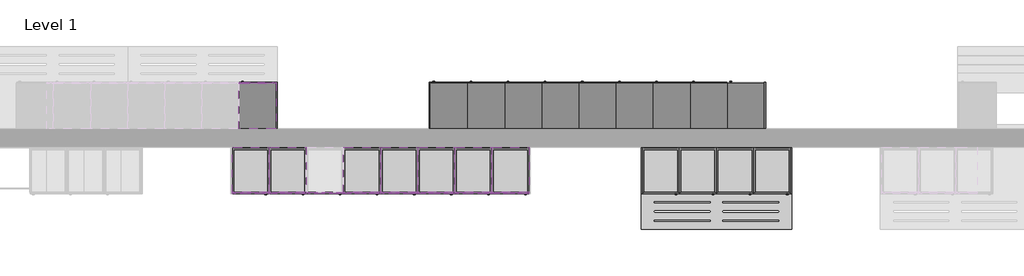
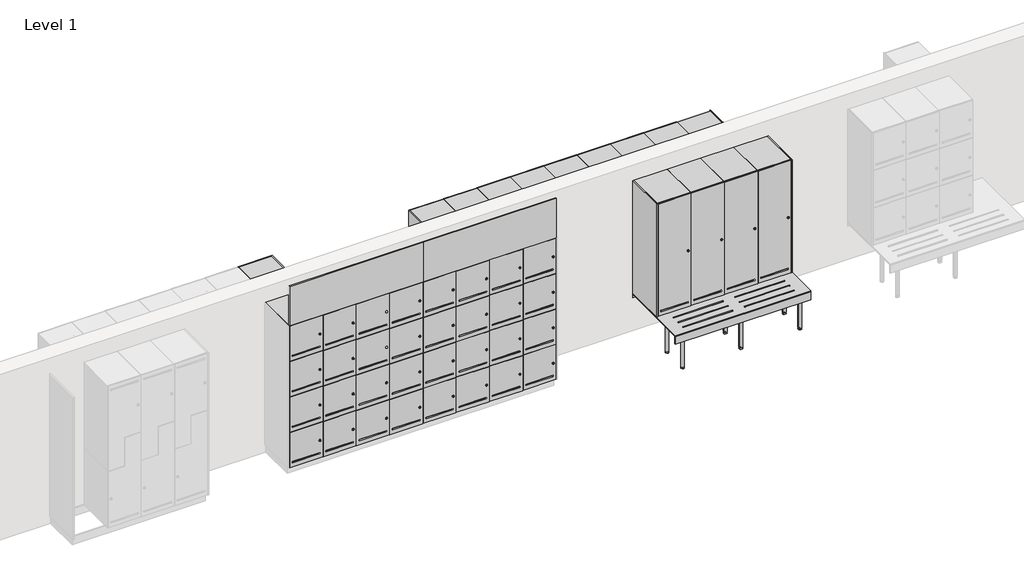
# One storey, part 2 of 4: 124 furniture elements.
"""IFC4 building model written with IfcOpenShell, lengths in millimetres."""

from ifc_helpers import new_model, si_unit, origin, place, context, project, spatial, transform, mapped, element, save
from components import furniture_7293fc8f, furniture_e4ac2a61, furniture_83d2262f, standard_2dcb62da, standard_f5ae554c, standard_ef5d929b, standard_f5e0fdab, standard_e0f8491c, standard_520bff41, standard_74556009, standard_31d623df, standard_40445af7, standard_a614ba5f, standard_bf09c246, standard_83458254, standard_7a0b6f89, standard_c490a989, standard_f60cbfea

model = new_model("IFC4")

# Units and contexts
model_context = context("Model", 3, world=origin())
ifc_project = project(units=[si_unit("LENGTHUNIT", "METRE", prefix="MILLI")], contexts=[model_context])

# Site, building, storey
site = spatial("IfcSite", under=ifc_project)
building = spatial("IfcBuilding", under=site)
storey = spatial("IfcBuildingStorey", under=building, Name="Level 1", Elevation=0.0)

# Furniture
placement = place(None, origin())
furniture_shape = furniture_7293fc8f(model_context)
element("IfcFurniture", 1, ObjectType="Lockers-Bay-Duracube-Duraloc : LBM-1900h x 500d x 400w with 470h Bench", at=placement, inside=storey, context=model_context, shape_type="MappedRepresentation", body=[
    mapped(furniture_shape, transform((-3635.1575415, 2567.7422336, 0.0), x_axis=(1.0, 0.0, 0.0), y_axis=(0.0, 1.0, 0.0), z_axis=(0.0, 0.0, 1.0))),
])
furniture_2_shape = furniture_e4ac2a61(model_context)
element("IfcFurniture", 2, ObjectType="Lockers-Bay-Duracube-Duraloc : LWM-1900h x 500d x 400w @ 470h Wall", at=placement, inside=storey, context=model_context, shape_type="MappedRepresentation", body=[
    mapped(furniture_2_shape, transform((-7555.1575415, 3267.7422336, 0.0), x_axis=(-1.0, 0.0, 0.0), y_axis=(0.0, -1.0, 0.0), z_axis=(0.0, 0.0, 1.0))),
])
furniture_3_shape = furniture_83d2262f(model_context)
element("IfcFurniture", 3, ObjectType="Lockers-Bay-Duracube-Duraloc : LSBM-1900h x 500d x 400w with 470h Shoe Box Mount", at=placement, inside=storey, context=model_context, shape_type="MappedRepresentation", body=[
    mapped(furniture_3_shape, transform((-2293.1423414, 3267.7422336, 0.0), x_axis=(-1.0, 0.0, 0.0), y_axis=(0.0, -1.0, 0.0), z_axis=(0.0, 0.0, 1.0))),
])
standard_shape = standard_2dcb62da(model_context)
element("IfcFurniture", 4, ObjectType="X_Bench-Foot-Duracube-Wall Assembly : Standard", at=placement, inside=storey, context=model_context, shape_type="MappedRepresentation", body=[
    mapped(standard_shape, transform((-3566.357868, 2317.7422336, 0.0), x_axis=(1.0, 0.0, 0.0), y_axis=(0.0, 1.0, 0.0), z_axis=(0.0, 0.0, 1.0))),
])
element("IfcFurniture", 5, ObjectType="X_Bench-Foot-Duracube-Wall Assembly : Standard", at=placement, inside=storey, context=model_context, shape_type="MappedRepresentation", body=[
    mapped(standard_shape, transform((-2866.857868, 2317.7422336, 0.0), x_axis=(1.0, 0.0, 0.0), y_axis=(0.0, 1.0, 0.0), z_axis=(0.0, 0.0, 1.0))),
])
element("IfcFurniture", 6, ObjectType="X_Bench-Foot-Duracube-Wall Assembly : Standard", at=placement, inside=storey, context=model_context, shape_type="MappedRepresentation", body=[
    mapped(standard_shape, transform((-7623.9572151, 3517.7422336, 0.0), x_axis=(-1.0, 0.0, 0.0), y_axis=(0.0, -1.0, 0.0), z_axis=(0.0, 0.0, 1.0))),
])
standard_2_shape = standard_f5ae554c(model_context)
element("IfcFurniture", 7, ObjectType="X_Bench-Foot-Duracube-Wall Assembly : Standard", at=placement, inside=storey, context=model_context, shape_type="MappedRepresentation", body=[
    mapped(standard_2_shape, transform((-2077.9572151, 2317.7422336, 0.0), x_axis=(-1.0, 0.0, 0.0), y_axis=(0.0, -1.0, 0.0), z_axis=(0.0, 0.0, 1.0))),
])
standard_3_shape = standard_ef5d929b(model_context)
element("IfcFurniture", 8, ObjectType="X_Vanity-Angle-Duracube-Bench Support : Standard", at=placement, inside=storey, context=model_context, shape_type="MappedRepresentation", body=[
    mapped(standard_3_shape, transform((-2866.857868, 2817.7422336, 417.0), x_axis=(1.0, 0.0, 0.0), y_axis=(0.0, 1.0, 0.0), z_axis=(0.0, 0.0, 1.0))),
])
standard_4_shape = standard_f5e0fdab(model_context)
element("IfcFurniture", 9, ObjectType="X_Bench-Wall-Duracube-Locker : Standard", at=placement, inside=storey, context=model_context, shape_type="MappedRepresentation", body=[
    mapped(standard_4_shape, transform((-2866.857868, 2725.2422336, 0.0), x_axis=(1.0, 0.0, 0.0), y_axis=(0.0, 1.0, 0.0), z_axis=(0.0, 0.0, 1.0))),
])
standard_5_shape = standard_e0f8491c(model_context)
element("IfcFurniture", 10, ObjectType="X_Locker-Duracube-Door : Standard", at=placement, inside=storey, context=model_context, shape_type="MappedRepresentation", body=[
    mapped(standard_5_shape, transform((-5086.857868, 2330.7422336, 1450.0), x_axis=(1.0, 0.0, 0.0), y_axis=(0.0, 1.0, 0.0), z_axis=(0.0, 0.0, 1.0))),
])
element("IfcFurniture", 11, ObjectType="X_Locker-Duracube-Door : Standard", at=placement, inside=storey, context=model_context, shape_type="MappedRepresentation", body=[
    mapped(standard_5_shape, transform((-5486.857868, 2330.7422336, 1450.0), x_axis=(1.0, 0.0, 0.0), y_axis=(0.0, 1.0, 0.0), z_axis=(0.0, 0.0, 1.0))),
])
element("IfcFurniture", 12, ObjectType="X_Locker-Duracube-Door : Standard", at=placement, inside=storey, context=model_context, shape_type="MappedRepresentation", body=[
    mapped(standard_5_shape, transform((-5886.857868, 2330.7422336, 1450.0), x_axis=(1.0, 0.0, 0.0), y_axis=(0.0, 1.0, 0.0), z_axis=(0.0, 0.0, 1.0))),
])
element("IfcFurniture", 13, ObjectType="X_Locker-Duracube-Door : Standard", at=placement, inside=storey, context=model_context, shape_type="MappedRepresentation", body=[
    mapped(standard_5_shape, transform((-6286.857868, 2330.7422336, 1450.0), x_axis=(1.0, 0.0, 0.0), y_axis=(0.0, 1.0, 0.0), z_axis=(0.0, 0.0, 1.0))),
])
element("IfcFurniture", 14, ObjectType="X_Locker-Duracube-Door : Standard", at=placement, inside=storey, context=model_context, shape_type="MappedRepresentation", body=[
    mapped(standard_5_shape, transform((-6686.857868, 2330.7422336, 1450.0), x_axis=(1.0, 0.0, 0.0), y_axis=(0.0, 1.0, 0.0), z_axis=(0.0, 0.0, 1.0))),
])
element("IfcFurniture", 15, ObjectType="X_Locker-Duracube-Door : Standard", at=placement, inside=storey, context=model_context, shape_type="MappedRepresentation", body=[
    mapped(standard_5_shape, transform((-7086.857868, 2330.7422336, 1450.0), x_axis=(1.0, 0.0, 0.0), y_axis=(0.0, 1.0, 0.0), z_axis=(0.0, 0.0, 1.0))),
])
element("IfcFurniture", 16, ObjectType="X_Locker-Duracube-Door : Standard", at=placement, inside=storey, context=model_context, shape_type="MappedRepresentation", body=[
    mapped(standard_5_shape, transform((-7486.857868, 2330.7422336, 1450.0), x_axis=(1.0, 0.0, 0.0), y_axis=(0.0, 1.0, 0.0), z_axis=(0.0, 0.0, 1.0))),
])
element("IfcFurniture", 17, ObjectType="X_Locker-Duracube-Door : Standard", at=placement, inside=storey, context=model_context, shape_type="MappedRepresentation", body=[
    mapped(standard_5_shape, transform((-7886.857868, 2330.7422336, 1450.0), x_axis=(1.0, 0.0, 0.0), y_axis=(0.0, 1.0, 0.0), z_axis=(0.0, 0.0, 1.0))),
])
element("IfcFurniture", 18, ObjectType="X_Locker-Duracube-Door : Standard", at=placement, inside=storey, context=model_context, shape_type="MappedRepresentation", body=[
    mapped(standard_5_shape, transform((-5086.857868, 2330.7422336, 1000.0), x_axis=(1.0, 0.0, 0.0), y_axis=(0.0, 1.0, 0.0), z_axis=(0.0, 0.0, 1.0))),
])
element("IfcFurniture", 19, ObjectType="X_Locker-Duracube-Door : Standard", at=placement, inside=storey, context=model_context, shape_type="MappedRepresentation", body=[
    mapped(standard_5_shape, transform((-5486.857868, 2330.7422336, 1000.0), x_axis=(1.0, 0.0, 0.0), y_axis=(0.0, 1.0, 0.0), z_axis=(0.0, 0.0, 1.0))),
])
element("IfcFurniture", 20, ObjectType="X_Locker-Duracube-Door : Standard", at=placement, inside=storey, context=model_context, shape_type="MappedRepresentation", body=[
    mapped(standard_5_shape, transform((-5886.857868, 2330.7422336, 1000.0), x_axis=(1.0, 0.0, 0.0), y_axis=(0.0, 1.0, 0.0), z_axis=(0.0, 0.0, 1.0))),
])
element("IfcFurniture", 21, ObjectType="X_Locker-Duracube-Door : Standard", at=placement, inside=storey, context=model_context, shape_type="MappedRepresentation", body=[
    mapped(standard_5_shape, transform((-6286.857868, 2330.7422336, 1000.0), x_axis=(1.0, 0.0, 0.0), y_axis=(0.0, 1.0, 0.0), z_axis=(0.0, 0.0, 1.0))),
])
element("IfcFurniture", 22, ObjectType="X_Locker-Duracube-Door : Standard", at=placement, inside=storey, context=model_context, shape_type="MappedRepresentation", body=[
    mapped(standard_5_shape, transform((-6686.857868, 2330.7422336, 1000.0), x_axis=(1.0, 0.0, 0.0), y_axis=(0.0, 1.0, 0.0), z_axis=(0.0, 0.0, 1.0))),
])
element("IfcFurniture", 23, ObjectType="X_Locker-Duracube-Door : Standard", at=placement, inside=storey, context=model_context, shape_type="MappedRepresentation", body=[
    mapped(standard_5_shape, transform((-7086.857868, 2330.7422336, 1000.0), x_axis=(1.0, 0.0, 0.0), y_axis=(0.0, 1.0, 0.0), z_axis=(0.0, 0.0, 1.0))),
])
element("IfcFurniture", 24, ObjectType="X_Locker-Duracube-Door : Standard", at=placement, inside=storey, context=model_context, shape_type="MappedRepresentation", body=[
    mapped(standard_5_shape, transform((-5086.857868, 2330.7422336, 100.0), x_axis=(1.0, 0.0, 0.0), y_axis=(0.0, 1.0, 0.0), z_axis=(0.0, 0.0, 1.0))),
])
element("IfcFurniture", 25, ObjectType="X_Locker-Duracube-Door : Standard", at=placement, inside=storey, context=model_context, shape_type="MappedRepresentation", body=[
    mapped(standard_5_shape, transform((-5486.857868, 2330.7422336, 100.0), x_axis=(1.0, 0.0, 0.0), y_axis=(0.0, 1.0, 0.0), z_axis=(0.0, 0.0, 1.0))),
])
element("IfcFurniture", 26, ObjectType="X_Locker-Duracube-Door : Standard", at=placement, inside=storey, context=model_context, shape_type="MappedRepresentation", body=[
    mapped(standard_5_shape, transform((-5886.857868, 2330.7422336, 100.0), x_axis=(1.0, 0.0, 0.0), y_axis=(0.0, 1.0, 0.0), z_axis=(0.0, 0.0, 1.0))),
])
element("IfcFurniture", 27, ObjectType="X_Locker-Duracube-Door : Standard", at=placement, inside=storey, context=model_context, shape_type="MappedRepresentation", body=[
    mapped(standard_5_shape, transform((-6286.857868, 2330.7422336, 100.0), x_axis=(1.0, 0.0, 0.0), y_axis=(0.0, 1.0, 0.0), z_axis=(0.0, 0.0, 1.0))),
])
element("IfcFurniture", 28, ObjectType="X_Locker-Duracube-Door : Standard", at=placement, inside=storey, context=model_context, shape_type="MappedRepresentation", body=[
    mapped(standard_5_shape, transform((-6686.857868, 2330.7422336, 100.0), x_axis=(1.0, 0.0, 0.0), y_axis=(0.0, 1.0, 0.0), z_axis=(0.0, 0.0, 1.0))),
])
element("IfcFurniture", 29, ObjectType="X_Locker-Duracube-Door : Standard", at=placement, inside=storey, context=model_context, shape_type="MappedRepresentation", body=[
    mapped(standard_5_shape, transform((-7086.857868, 2330.7422336, 100.0), x_axis=(1.0, 0.0, 0.0), y_axis=(0.0, 1.0, 0.0), z_axis=(0.0, 0.0, 1.0))),
])
element("IfcFurniture", 30, ObjectType="X_Locker-Duracube-Door : Standard", at=placement, inside=storey, context=model_context, shape_type="MappedRepresentation", body=[
    mapped(standard_5_shape, transform((-7486.857868, 2330.7422336, 1000.0), x_axis=(1.0, 0.0, 0.0), y_axis=(0.0, 1.0, 0.0), z_axis=(0.0, 0.0, 1.0))),
])
element("IfcFurniture", 31, ObjectType="X_Locker-Duracube-Door : Standard", at=placement, inside=storey, context=model_context, shape_type="MappedRepresentation", body=[
    mapped(standard_5_shape, transform((-7486.857868, 2330.7422336, 100.0), x_axis=(1.0, 0.0, 0.0), y_axis=(0.0, 1.0, 0.0), z_axis=(0.0, 0.0, 1.0))),
])
element("IfcFurniture", 32, ObjectType="X_Locker-Duracube-Door : Standard", at=placement, inside=storey, context=model_context, shape_type="MappedRepresentation", body=[
    mapped(standard_5_shape, transform((-7886.857868, 2330.7422336, 1000.0), x_axis=(1.0, 0.0, 0.0), y_axis=(0.0, 1.0, 0.0), z_axis=(0.0, 0.0, 1.0))),
])
element("IfcFurniture", 33, ObjectType="X_Locker-Duracube-Door : Standard", at=placement, inside=storey, context=model_context, shape_type="MappedRepresentation", body=[
    mapped(standard_5_shape, transform((-7886.857868, 2330.7422336, 100.0), x_axis=(1.0, 0.0, 0.0), y_axis=(0.0, 1.0, 0.0), z_axis=(0.0, 0.0, 1.0))),
])
element("IfcFurniture", 34, ObjectType="X_Locker-Duracube-Door : Standard", at=placement, inside=storey, context=model_context, shape_type="MappedRepresentation", body=[
    mapped(standard_5_shape, transform((-5086.857868, 2330.7422336, 550.0), x_axis=(1.0, 0.0, 0.0), y_axis=(0.0, 1.0, 0.0), z_axis=(0.0, 0.0, 1.0))),
])
element("IfcFurniture", 35, ObjectType="X_Locker-Duracube-Door : Standard", at=placement, inside=storey, context=model_context, shape_type="MappedRepresentation", body=[
    mapped(standard_5_shape, transform((-5486.857868, 2330.7422336, 550.0), x_axis=(1.0, 0.0, 0.0), y_axis=(0.0, 1.0, 0.0), z_axis=(0.0, 0.0, 1.0))),
])
element("IfcFurniture", 36, ObjectType="X_Locker-Duracube-Door : Standard", at=placement, inside=storey, context=model_context, shape_type="MappedRepresentation", body=[
    mapped(standard_5_shape, transform((-5886.857868, 2330.7422336, 550.0), x_axis=(1.0, 0.0, 0.0), y_axis=(0.0, 1.0, 0.0), z_axis=(0.0, 0.0, 1.0))),
])
element("IfcFurniture", 37, ObjectType="X_Locker-Duracube-Door : Standard", at=placement, inside=storey, context=model_context, shape_type="MappedRepresentation", body=[
    mapped(standard_5_shape, transform((-6286.857868, 2330.7422336, 550.0), x_axis=(1.0, 0.0, 0.0), y_axis=(0.0, 1.0, 0.0), z_axis=(0.0, 0.0, 1.0))),
])
element("IfcFurniture", 38, ObjectType="X_Locker-Duracube-Door : Standard", at=placement, inside=storey, context=model_context, shape_type="MappedRepresentation", body=[
    mapped(standard_5_shape, transform((-6686.857868, 2330.7422336, 550.0), x_axis=(1.0, 0.0, 0.0), y_axis=(0.0, 1.0, 0.0), z_axis=(0.0, 0.0, 1.0))),
])
element("IfcFurniture", 39, ObjectType="X_Locker-Duracube-Door : Standard", at=placement, inside=storey, context=model_context, shape_type="MappedRepresentation", body=[
    mapped(standard_5_shape, transform((-7086.857868, 2330.7422336, 550.0), x_axis=(1.0, 0.0, 0.0), y_axis=(0.0, 1.0, 0.0), z_axis=(0.0, 0.0, 1.0))),
])
element("IfcFurniture", 40, ObjectType="X_Locker-Duracube-Door : Standard", at=placement, inside=storey, context=model_context, shape_type="MappedRepresentation", body=[
    mapped(standard_5_shape, transform((-7486.857868, 2330.7422336, 550.0), x_axis=(1.0, 0.0, 0.0), y_axis=(0.0, 1.0, 0.0), z_axis=(0.0, 0.0, 1.0))),
])
element("IfcFurniture", 41, ObjectType="X_Locker-Duracube-Door : Standard", at=placement, inside=storey, context=model_context, shape_type="MappedRepresentation", body=[
    mapped(standard_5_shape, transform((-7886.857868, 2330.7422336, 550.0), x_axis=(1.0, 0.0, 0.0), y_axis=(0.0, 1.0, 0.0), z_axis=(0.0, 0.0, 1.0))),
])
standard_6_shape = standard_520bff41(model_context)
element("IfcFurniture", 42, ObjectType="X_Locker-Duracube-Bay : Standard", at=placement, inside=storey, context=model_context, shape_type="MappedRepresentation", body=[
    mapped(standard_6_shape, transform((-2266.857868, 2817.7422336, 470.0), x_axis=(1.0, 0.0, 0.0), y_axis=(0.0, 1.0, 0.0), z_axis=(0.0, 0.0, 1.0))),
])
element("IfcFurniture", 43, ObjectType="X_Locker-Duracube-Bay : Standard", at=placement, inside=storey, context=model_context, shape_type="MappedRepresentation", body=[
    mapped(standard_6_shape, transform((-2666.857868, 2817.7422336, 470.0), x_axis=(1.0, 0.0, 0.0), y_axis=(0.0, 1.0, 0.0), z_axis=(0.0, 0.0, 1.0))),
])
element("IfcFurniture", 44, ObjectType="X_Locker-Duracube-Bay : Standard", at=placement, inside=storey, context=model_context, shape_type="MappedRepresentation", body=[
    mapped(standard_6_shape, transform((-3066.857868, 2817.7422336, 470.0), x_axis=(1.0, 0.0, 0.0), y_axis=(0.0, 1.0, 0.0), z_axis=(0.0, 0.0, 1.0))),
])
element("IfcFurniture", 45, ObjectType="X_Locker-Duracube-Bay : Standard", at=placement, inside=storey, context=model_context, shape_type="MappedRepresentation", body=[
    mapped(standard_6_shape, transform((-3466.857868, 2817.7422336, 470.0), x_axis=(1.0, 0.0, 0.0), y_axis=(0.0, 1.0, 0.0), z_axis=(0.0, 0.0, 1.0))),
])
standard_7_shape = standard_74556009(model_context)
element("IfcFurniture", 46, ObjectType="X_Locker-Duracube-Door : Standard", at=placement, inside=storey, context=model_context, shape_type="MappedRepresentation", body=[
    mapped(standard_7_shape, transform((-2266.857868, 2330.7422336, 470.0), x_axis=(1.0, 0.0, 0.0), y_axis=(0.0, 1.0, 0.0), z_axis=(0.0, 0.0, 1.0))),
])
element("IfcFurniture", 47, ObjectType="X_Locker-Duracube-Door : Standard", at=placement, inside=storey, context=model_context, shape_type="MappedRepresentation", body=[
    mapped(standard_7_shape, transform((-2666.857868, 2330.7422336, 470.0), x_axis=(1.0, 0.0, 0.0), y_axis=(0.0, 1.0, 0.0), z_axis=(0.0, 0.0, 1.0))),
])
element("IfcFurniture", 48, ObjectType="X_Locker-Duracube-Door : Standard", at=placement, inside=storey, context=model_context, shape_type="MappedRepresentation", body=[
    mapped(standard_7_shape, transform((-3066.857868, 2330.7422336, 470.0), x_axis=(1.0, 0.0, 0.0), y_axis=(0.0, 1.0, 0.0), z_axis=(0.0, 0.0, 1.0))),
])
element("IfcFurniture", 49, ObjectType="X_Locker-Duracube-Door : Standard", at=placement, inside=storey, context=model_context, shape_type="MappedRepresentation", body=[
    mapped(standard_7_shape, transform((-3466.857868, 2330.7422336, 470.0), x_axis=(1.0, 0.0, 0.0), y_axis=(0.0, 1.0, 0.0), z_axis=(0.0, 0.0, 1.0))),
])
standard_8_shape = standard_31d623df(model_context)
element("IfcFurniture", 50, ObjectType="X_Locker-Duracube-Door : Standard", at=placement, inside=storey, context=model_context, shape_type="MappedRepresentation", body=[
    mapped(standard_8_shape, transform((-5661.442015, 3504.7422336, 1185.0), x_axis=(-1.0, 0.0, 0.0), y_axis=(0.0, -1.0, 0.0), z_axis=(0.0, 0.0, 1.0))),
])
element("IfcFurniture", 51, ObjectType="X_Locker-Duracube-Door : Standard", at=placement, inside=storey, context=model_context, shape_type="MappedRepresentation", body=[
    mapped(standard_8_shape, transform((-5261.442015, 3504.7422336, 1185.0), x_axis=(-1.0, 0.0, 0.0), y_axis=(0.0, -1.0, 0.0), z_axis=(0.0, 0.0, 1.0))),
])
element("IfcFurniture", 52, ObjectType="X_Locker-Duracube-Door : Standard", at=placement, inside=storey, context=model_context, shape_type="MappedRepresentation", body=[
    mapped(standard_8_shape, transform((-4861.442015, 3504.7422336, 1185.0), x_axis=(-1.0, 0.0, 0.0), y_axis=(0.0, -1.0, 0.0), z_axis=(0.0, 0.0, 1.0))),
])
element("IfcFurniture", 53, ObjectType="X_Locker-Duracube-Door : Standard", at=placement, inside=storey, context=model_context, shape_type="MappedRepresentation", body=[
    mapped(standard_8_shape, transform((-4461.442015, 3504.7422336, 1185.0), x_axis=(-1.0, 0.0, 0.0), y_axis=(0.0, -1.0, 0.0), z_axis=(0.0, 0.0, 1.0))),
])
element("IfcFurniture", 54, ObjectType="X_Locker-Duracube-Door : Standard", at=placement, inside=storey, context=model_context, shape_type="MappedRepresentation", body=[
    mapped(standard_8_shape, transform((-4061.442015, 3504.7422336, 1185.0), x_axis=(-1.0, 0.0, 0.0), y_axis=(0.0, -1.0, 0.0), z_axis=(0.0, 0.0, 1.0))),
])
element("IfcFurniture", 55, ObjectType="X_Locker-Duracube-Door : Standard", at=placement, inside=storey, context=model_context, shape_type="MappedRepresentation", body=[
    mapped(standard_8_shape, transform((-3661.442015, 3504.7422336, 1185.0), x_axis=(-1.0, 0.0, 0.0), y_axis=(0.0, -1.0, 0.0), z_axis=(0.0, 0.0, 1.0))),
])
element("IfcFurniture", 56, ObjectType="X_Locker-Duracube-Door : Standard", at=placement, inside=storey, context=model_context, shape_type="MappedRepresentation", body=[
    mapped(standard_8_shape, transform((-3261.442015, 3504.7422336, 1185.0), x_axis=(-1.0, 0.0, 0.0), y_axis=(0.0, -1.0, 0.0), z_axis=(0.0, 0.0, 1.0))),
])
element("IfcFurniture", 57, ObjectType="X_Locker-Duracube-Door : Standard", at=placement, inside=storey, context=model_context, shape_type="MappedRepresentation", body=[
    mapped(standard_8_shape, transform((-5661.442015, 3504.7422336, 470.0), x_axis=(-1.0, 0.0, 0.0), y_axis=(0.0, -1.0, 0.0), z_axis=(0.0, 0.0, 1.0))),
])
element("IfcFurniture", 58, ObjectType="X_Locker-Duracube-Door : Standard", at=placement, inside=storey, context=model_context, shape_type="MappedRepresentation", body=[
    mapped(standard_8_shape, transform((-5261.442015, 3504.7422336, 470.0), x_axis=(-1.0, 0.0, 0.0), y_axis=(0.0, -1.0, 0.0), z_axis=(0.0, 0.0, 1.0))),
])
element("IfcFurniture", 59, ObjectType="X_Locker-Duracube-Door : Standard", at=placement, inside=storey, context=model_context, shape_type="MappedRepresentation", body=[
    mapped(standard_8_shape, transform((-4861.442015, 3504.7422336, 470.0), x_axis=(-1.0, 0.0, 0.0), y_axis=(0.0, -1.0, 0.0), z_axis=(0.0, 0.0, 1.0))),
])
element("IfcFurniture", 60, ObjectType="X_Locker-Duracube-Door : Standard", at=placement, inside=storey, context=model_context, shape_type="MappedRepresentation", body=[
    mapped(standard_8_shape, transform((-4461.442015, 3504.7422336, 470.0), x_axis=(-1.0, 0.0, 0.0), y_axis=(0.0, -1.0, 0.0), z_axis=(0.0, 0.0, 1.0))),
])
element("IfcFurniture", 61, ObjectType="X_Locker-Duracube-Door : Standard", at=placement, inside=storey, context=model_context, shape_type="MappedRepresentation", body=[
    mapped(standard_8_shape, transform((-4061.442015, 3504.7422336, 470.0), x_axis=(-1.0, 0.0, 0.0), y_axis=(0.0, -1.0, 0.0), z_axis=(0.0, 0.0, 1.0))),
])
element("IfcFurniture", 62, ObjectType="X_Locker-Duracube-Door : Standard", at=placement, inside=storey, context=model_context, shape_type="MappedRepresentation", body=[
    mapped(standard_8_shape, transform((-3661.442015, 3504.7422336, 470.0), x_axis=(-1.0, 0.0, 0.0), y_axis=(0.0, -1.0, 0.0), z_axis=(0.0, 0.0, 1.0))),
])
element("IfcFurniture", 63, ObjectType="X_Locker-Duracube-Door : Standard", at=placement, inside=storey, context=model_context, shape_type="MappedRepresentation", body=[
    mapped(standard_8_shape, transform((-3261.442015, 3504.7422336, 470.0), x_axis=(-1.0, 0.0, 0.0), y_axis=(0.0, -1.0, 0.0), z_axis=(0.0, 0.0, 1.0))),
])
element("IfcFurniture", 64, ObjectType="X_Locker-Duracube-Door : Standard", at=placement, inside=storey, context=model_context, shape_type="MappedRepresentation", body=[
    mapped(standard_8_shape, transform((-2861.442015, 3504.7422336, 1185.0), x_axis=(-1.0, 0.0, 0.0), y_axis=(0.0, -1.0, 0.0), z_axis=(0.0, 0.0, 1.0))),
])
standard_9_shape = standard_40445af7(model_context)
element("IfcFurniture", 65, ObjectType="X_Locker-Duracube-Bay : Standard", at=placement, inside=storey, context=model_context, shape_type="MappedRepresentation", body=[
    mapped(standard_9_shape, transform((-7723.4572151, 3017.7422336, 470.0), x_axis=(-1.0, 0.0, 0.0), y_axis=(0.0, -1.0, 0.0), z_axis=(0.0, 0.0, 1.0))),
])
element("IfcFurniture", 66, ObjectType="X_Locker-Duracube-Bay : Standard", at=placement, inside=storey, context=model_context, shape_type="MappedRepresentation", body=[
    mapped(standard_9_shape, transform((-7723.4572151, 3017.7422336, 1185.0), x_axis=(-1.0, 0.0, 0.0), y_axis=(0.0, -1.0, 0.0), z_axis=(0.0, 0.0, 1.0))),
])
standard_10_shape = standard_a614ba5f(model_context)
element("IfcFurniture", 67, ObjectType="X_Locker-Duracube-Door : Standard", at=placement, inside=storey, context=model_context, shape_type="MappedRepresentation", body=[
    mapped(standard_10_shape, transform((-7723.4572151, 3504.7422336, 470.0), x_axis=(-1.0, 0.0, 0.0), y_axis=(0.0, -1.0, 0.0), z_axis=(0.0, 0.0, 1.0))),
])
element("IfcFurniture", 68, ObjectType="X_Locker-Duracube-Door : Standard", at=placement, inside=storey, context=model_context, shape_type="MappedRepresentation", body=[
    mapped(standard_10_shape, transform((-7723.4572151, 3504.7422336, 1185.0), x_axis=(-1.0, 0.0, 0.0), y_axis=(0.0, -1.0, 0.0), z_axis=(0.0, 0.0, 1.0))),
])
element("IfcFurniture", 69, ObjectType="X_Locker-Duracube-Bay : Standard", at=placement, inside=storey, context=model_context, shape_type="MappedRepresentation", body=[
    mapped(standard_9_shape, transform((-7723.4572151, 3017.7422336, 827.5), x_axis=(-1.0, 0.0, 0.0), y_axis=(0.0, -1.0, 0.0), z_axis=(0.0, 0.0, 1.0))),
])
element("IfcFurniture", 70, ObjectType="X_Locker-Duracube-Door : Standard", at=placement, inside=storey, context=model_context, shape_type="MappedRepresentation", body=[
    mapped(standard_10_shape, transform((-7723.4572151, 3504.7422336, 827.5), x_axis=(-1.0, 0.0, 0.0), y_axis=(0.0, -1.0, 0.0), z_axis=(0.0, 0.0, 1.0))),
])
element("IfcFurniture", 71, ObjectType="X_Locker-Duracube-Bay : Standard", at=placement, inside=storey, context=model_context, shape_type="MappedRepresentation", body=[
    mapped(standard_9_shape, transform((-7723.4572151, 3017.7422336, 1542.5), x_axis=(-1.0, 0.0, 0.0), y_axis=(0.0, -1.0, 0.0), z_axis=(0.0, 0.0, 1.0))),
])
element("IfcFurniture", 72, ObjectType="X_Locker-Duracube-Door : Standard", at=placement, inside=storey, context=model_context, shape_type="MappedRepresentation", body=[
    mapped(standard_10_shape, transform((-7723.4572151, 3504.7422336, 1542.5), x_axis=(-1.0, 0.0, 0.0), y_axis=(0.0, -1.0, 0.0), z_axis=(0.0, 0.0, 1.0))),
])
standard_11_shape = standard_bf09c246(model_context)
element("IfcFurniture", 73, ObjectType="X_Locker-Duracube-Bay : Standard", at=placement, inside=storey, context=model_context, shape_type="MappedRepresentation", body=[
    mapped(standard_11_shape, transform((-5661.442015, 3017.7422336, 1185.0), x_axis=(-1.0, 0.0, 0.0), y_axis=(0.0, -1.0, 0.0), z_axis=(0.0, 0.0, 1.0))),
])
element("IfcFurniture", 74, ObjectType="X_Locker-Duracube-Bay : Standard", at=placement, inside=storey, context=model_context, shape_type="MappedRepresentation", body=[
    mapped(standard_11_shape, transform((-5261.442015, 3017.7422336, 1185.0), x_axis=(-1.0, 0.0, 0.0), y_axis=(0.0, -1.0, 0.0), z_axis=(0.0, 0.0, 1.0))),
])
element("IfcFurniture", 75, ObjectType="X_Locker-Duracube-Bay : Standard", at=placement, inside=storey, context=model_context, shape_type="MappedRepresentation", body=[
    mapped(standard_11_shape, transform((-4861.442015, 3017.7422336, 1185.0), x_axis=(-1.0, 0.0, 0.0), y_axis=(0.0, -1.0, 0.0), z_axis=(0.0, 0.0, 1.0))),
])
element("IfcFurniture", 76, ObjectType="X_Locker-Duracube-Bay : Standard", at=placement, inside=storey, context=model_context, shape_type="MappedRepresentation", body=[
    mapped(standard_11_shape, transform((-4461.442015, 3017.7422336, 1185.0), x_axis=(-1.0, 0.0, 0.0), y_axis=(0.0, -1.0, 0.0), z_axis=(0.0, 0.0, 1.0))),
])
element("IfcFurniture", 77, ObjectType="X_Locker-Duracube-Bay : Standard", at=placement, inside=storey, context=model_context, shape_type="MappedRepresentation", body=[
    mapped(standard_11_shape, transform((-4061.442015, 3017.7422336, 1185.0), x_axis=(-1.0, 0.0, 0.0), y_axis=(0.0, -1.0, 0.0), z_axis=(0.0, 0.0, 1.0))),
])
element("IfcFurniture", 78, ObjectType="X_Locker-Duracube-Bay : Standard", at=placement, inside=storey, context=model_context, shape_type="MappedRepresentation", body=[
    mapped(standard_11_shape, transform((-3661.442015, 3017.7422336, 1185.0), x_axis=(-1.0, 0.0, 0.0), y_axis=(0.0, -1.0, 0.0), z_axis=(0.0, 0.0, 1.0))),
])
element("IfcFurniture", 79, ObjectType="X_Locker-Duracube-Bay : Standard", at=placement, inside=storey, context=model_context, shape_type="MappedRepresentation", body=[
    mapped(standard_11_shape, transform((-3261.442015, 3017.7422336, 1185.0), x_axis=(-1.0, 0.0, 0.0), y_axis=(0.0, -1.0, 0.0), z_axis=(0.0, 0.0, 1.0))),
])
element("IfcFurniture", 80, ObjectType="X_Locker-Duracube-Bay : Standard", at=placement, inside=storey, context=model_context, shape_type="MappedRepresentation", body=[
    mapped(standard_11_shape, transform((-5661.442015, 3017.7422336, 470.0), x_axis=(-1.0, 0.0, 0.0), y_axis=(0.0, -1.0, 0.0), z_axis=(0.0, 0.0, 1.0))),
])
element("IfcFurniture", 81, ObjectType="X_Locker-Duracube-Bay : Standard", at=placement, inside=storey, context=model_context, shape_type="MappedRepresentation", body=[
    mapped(standard_11_shape, transform((-5261.442015, 3017.7422336, 470.0), x_axis=(-1.0, 0.0, 0.0), y_axis=(0.0, -1.0, 0.0), z_axis=(0.0, 0.0, 1.0))),
])
element("IfcFurniture", 82, ObjectType="X_Locker-Duracube-Bay : Standard", at=placement, inside=storey, context=model_context, shape_type="MappedRepresentation", body=[
    mapped(standard_11_shape, transform((-4861.442015, 3017.7422336, 470.0), x_axis=(-1.0, 0.0, 0.0), y_axis=(0.0, -1.0, 0.0), z_axis=(0.0, 0.0, 1.0))),
])
element("IfcFurniture", 83, ObjectType="X_Locker-Duracube-Bay : Standard", at=placement, inside=storey, context=model_context, shape_type="MappedRepresentation", body=[
    mapped(standard_11_shape, transform((-4461.442015, 3017.7422336, 470.0), x_axis=(-1.0, 0.0, 0.0), y_axis=(0.0, -1.0, 0.0), z_axis=(0.0, 0.0, 1.0))),
])
element("IfcFurniture", 84, ObjectType="X_Locker-Duracube-Bay : Standard", at=placement, inside=storey, context=model_context, shape_type="MappedRepresentation", body=[
    mapped(standard_11_shape, transform((-4061.442015, 3017.7422336, 470.0), x_axis=(-1.0, 0.0, 0.0), y_axis=(0.0, -1.0, 0.0), z_axis=(0.0, 0.0, 1.0))),
])
element("IfcFurniture", 85, ObjectType="X_Locker-Duracube-Bay : Standard", at=placement, inside=storey, context=model_context, shape_type="MappedRepresentation", body=[
    mapped(standard_11_shape, transform((-3661.442015, 3017.7422336, 470.0), x_axis=(-1.0, 0.0, 0.0), y_axis=(0.0, -1.0, 0.0), z_axis=(0.0, 0.0, 1.0))),
])
element("IfcFurniture", 86, ObjectType="X_Locker-Duracube-Bay : Standard", at=placement, inside=storey, context=model_context, shape_type="MappedRepresentation", body=[
    mapped(standard_11_shape, transform((-3261.442015, 3017.7422336, 470.0), x_axis=(-1.0, 0.0, 0.0), y_axis=(0.0, -1.0, 0.0), z_axis=(0.0, 0.0, 1.0))),
])
element("IfcFurniture", 87, ObjectType="X_Locker-Duracube-Bay : Standard", at=placement, inside=storey, context=model_context, shape_type="MappedRepresentation", body=[
    mapped(standard_11_shape, transform((-2861.442015, 3017.7422336, 1185.0), x_axis=(-1.0, 0.0, 0.0), y_axis=(0.0, -1.0, 0.0), z_axis=(0.0, 0.0, 1.0))),
])
element("IfcFurniture", 88, ObjectType="X_Locker-Duracube-Bay : Standard", at=placement, inside=storey, context=model_context, shape_type="MappedRepresentation", body=[
    mapped(standard_11_shape, transform((-2861.442015, 3017.7422336, 470.0), x_axis=(-1.0, 0.0, 0.0), y_axis=(0.0, -1.0, 0.0), z_axis=(0.0, 0.0, 1.0))),
])
element("IfcFurniture", 89, ObjectType="X_Locker-Duracube-Bay : Standard", at=placement, inside=storey, context=model_context, shape_type="MappedRepresentation", body=[
    mapped(standard_11_shape, transform((-2461.442015, 3017.7422336, 1185.0), x_axis=(-1.0, 0.0, 0.0), y_axis=(0.0, -1.0, 0.0), z_axis=(0.0, 0.0, 1.0))),
])
element("IfcFurniture", 90, ObjectType="X_Locker-Duracube-Bay : Standard", at=placement, inside=storey, context=model_context, shape_type="MappedRepresentation", body=[
    mapped(standard_11_shape, transform((-2461.442015, 3017.7422336, 470.0), x_axis=(-1.0, 0.0, 0.0), y_axis=(0.0, -1.0, 0.0), z_axis=(0.0, 0.0, 1.0))),
])
standard_12_shape = standard_83458254(model_context)
element("IfcFurniture", 91, ObjectType="X_Locker-Duracube-Shoe Box : Standard", at=placement, inside=storey, context=model_context, shape_type="MappedRepresentation", body=[
    mapped(standard_12_shape, transform((-3254.942015, 2725.2422336, 0.0), x_axis=(-1.0, 0.0, 0.0), y_axis=(0.0, -1.0, 0.0), z_axis=(0.0, 0.0, 1.0))),
])
standard_13_shape = standard_7a0b6f89(model_context)
element("IfcFurniture", 92, ObjectType="X_Locker-Duracube-Shoe Box : Standard", at=placement, inside=storey, context=model_context, shape_type="MappedRepresentation", body=[
    mapped(standard_13_shape, transform((-5067.942015, 2725.2422336, 0.0), x_axis=(-1.0, 0.0, 0.0), y_axis=(0.0, -1.0, 0.0), z_axis=(0.0, 0.0, 1.0))),
])
standard_14_shape = standard_c490a989(model_context)
element("IfcFurniture", 93, ObjectType="X_Locker-Duracube-Panel : Standard", at=placement, inside=storey, context=model_context, shape_type="MappedRepresentation", body=[
    mapped(standard_14_shape, transform((-5681.857868, 2330.7422336, 1900.0), x_axis=(1.0, 0.0, 0.0), y_axis=(0.0, 1.0, 0.0), z_axis=(0.0, 0.0, 1.0))),
])
element("IfcFurniture", 94, ObjectType="X_Locker-Duracube-Panel : Standard", at=placement, inside=storey, context=model_context, shape_type="MappedRepresentation", body=[
    mapped(standard_14_shape, transform((-7281.857868, 2330.7422336, 1900.0), x_axis=(1.0, 0.0, 0.0), y_axis=(0.0, 1.0, 0.0), z_axis=(0.0, 0.0, 1.0))),
])
standard_15_shape = standard_f60cbfea(model_context)
element("IfcFurniture", 95, ObjectType="X_Locker-Duracube-Bay : Standard", at=placement, inside=storey, context=model_context, shape_type="MappedRepresentation", body=[
    mapped(standard_15_shape, transform((-5086.857868, 2817.7422336, 1450.0), x_axis=(1.0, 0.0, 0.0), y_axis=(0.0, 1.0, 0.0), z_axis=(0.0, 0.0, 1.0))),
])
element("IfcFurniture", 96, ObjectType="X_Locker-Duracube-Bay : Standard", at=placement, inside=storey, context=model_context, shape_type="MappedRepresentation", body=[
    mapped(standard_15_shape, transform((-5486.857868, 2817.7422336, 1450.0), x_axis=(1.0, 0.0, 0.0), y_axis=(0.0, 1.0, 0.0), z_axis=(0.0, 0.0, 1.0))),
])
element("IfcFurniture", 97, ObjectType="X_Locker-Duracube-Bay : Standard", at=placement, inside=storey, context=model_context, shape_type="MappedRepresentation", body=[
    mapped(standard_15_shape, transform((-5886.857868, 2817.7422336, 1450.0), x_axis=(1.0, 0.0, 0.0), y_axis=(0.0, 1.0, 0.0), z_axis=(0.0, 0.0, 1.0))),
])
element("IfcFurniture", 98, ObjectType="X_Locker-Duracube-Bay : Standard", at=placement, inside=storey, context=model_context, shape_type="MappedRepresentation", body=[
    mapped(standard_15_shape, transform((-6286.857868, 2817.7422336, 1450.0), x_axis=(1.0, 0.0, 0.0), y_axis=(0.0, 1.0, 0.0), z_axis=(0.0, 0.0, 1.0))),
])
element("IfcFurniture", 99, ObjectType="X_Locker-Duracube-Bay : Standard", at=placement, inside=storey, context=model_context, shape_type="MappedRepresentation", body=[
    mapped(standard_15_shape, transform((-6686.857868, 2817.7422336, 1450.0), x_axis=(1.0, 0.0, 0.0), y_axis=(0.0, 1.0, 0.0), z_axis=(0.0, 0.0, 1.0))),
])
element("IfcFurniture", 100, ObjectType="X_Locker-Duracube-Bay : Standard", at=placement, inside=storey, context=model_context, shape_type="MappedRepresentation", body=[
    mapped(standard_15_shape, transform((-7486.857868, 2817.7422336, 1450.0), x_axis=(1.0, 0.0, 0.0), y_axis=(0.0, 1.0, 0.0), z_axis=(0.0, 0.0, 1.0))),
])
element("IfcFurniture", 101, ObjectType="X_Locker-Duracube-Bay : Standard", at=placement, inside=storey, context=model_context, shape_type="MappedRepresentation", body=[
    mapped(standard_15_shape, transform((-7886.857868, 2817.7422336, 1450.0), x_axis=(1.0, 0.0, 0.0), y_axis=(0.0, 1.0, 0.0), z_axis=(0.0, 0.0, 1.0))),
])
element("IfcFurniture", 102, ObjectType="X_Locker-Duracube-Bay : Standard", at=placement, inside=storey, context=model_context, shape_type="MappedRepresentation", body=[
    mapped(standard_15_shape, transform((-5086.857868, 2817.7422336, 1000.0), x_axis=(1.0, 0.0, 0.0), y_axis=(0.0, 1.0, 0.0), z_axis=(0.0, 0.0, 1.0))),
])
element("IfcFurniture", 103, ObjectType="X_Locker-Duracube-Bay : Standard", at=placement, inside=storey, context=model_context, shape_type="MappedRepresentation", body=[
    mapped(standard_15_shape, transform((-5486.857868, 2817.7422336, 1000.0), x_axis=(1.0, 0.0, 0.0), y_axis=(0.0, 1.0, 0.0), z_axis=(0.0, 0.0, 1.0))),
])
element("IfcFurniture", 104, ObjectType="X_Locker-Duracube-Bay : Standard", at=placement, inside=storey, context=model_context, shape_type="MappedRepresentation", body=[
    mapped(standard_15_shape, transform((-5886.857868, 2817.7422336, 1000.0), x_axis=(1.0, 0.0, 0.0), y_axis=(0.0, 1.0, 0.0), z_axis=(0.0, 0.0, 1.0))),
])
element("IfcFurniture", 105, ObjectType="X_Locker-Duracube-Bay : Standard", at=placement, inside=storey, context=model_context, shape_type="MappedRepresentation", body=[
    mapped(standard_15_shape, transform((-6286.857868, 2817.7422336, 1000.0), x_axis=(1.0, 0.0, 0.0), y_axis=(0.0, 1.0, 0.0), z_axis=(0.0, 0.0, 1.0))),
])
element("IfcFurniture", 106, ObjectType="X_Locker-Duracube-Bay : Standard", at=placement, inside=storey, context=model_context, shape_type="MappedRepresentation", body=[
    mapped(standard_15_shape, transform((-6686.857868, 2817.7422336, 1000.0), x_axis=(1.0, 0.0, 0.0), y_axis=(0.0, 1.0, 0.0), z_axis=(0.0, 0.0, 1.0))),
])
element("IfcFurniture", 107, ObjectType="X_Locker-Duracube-Bay : Standard", at=placement, inside=storey, context=model_context, shape_type="MappedRepresentation", body=[
    mapped(standard_15_shape, transform((-5086.857868, 2817.7422336, 100.0), x_axis=(1.0, 0.0, 0.0), y_axis=(0.0, 1.0, 0.0), z_axis=(0.0, 0.0, 1.0))),
])
element("IfcFurniture", 108, ObjectType="X_Locker-Duracube-Bay : Standard", at=placement, inside=storey, context=model_context, shape_type="MappedRepresentation", body=[
    mapped(standard_15_shape, transform((-5486.857868, 2817.7422336, 100.0), x_axis=(1.0, 0.0, 0.0), y_axis=(0.0, 1.0, 0.0), z_axis=(0.0, 0.0, 1.0))),
])
element("IfcFurniture", 109, ObjectType="X_Locker-Duracube-Bay : Standard", at=placement, inside=storey, context=model_context, shape_type="MappedRepresentation", body=[
    mapped(standard_15_shape, transform((-5886.857868, 2817.7422336, 100.0), x_axis=(1.0, 0.0, 0.0), y_axis=(0.0, 1.0, 0.0), z_axis=(0.0, 0.0, 1.0))),
])
element("IfcFurniture", 110, ObjectType="X_Locker-Duracube-Bay : Standard", at=placement, inside=storey, context=model_context, shape_type="MappedRepresentation", body=[
    mapped(standard_15_shape, transform((-6286.857868, 2817.7422336, 100.0), x_axis=(1.0, 0.0, 0.0), y_axis=(0.0, 1.0, 0.0), z_axis=(0.0, 0.0, 1.0))),
])
element("IfcFurniture", 111, ObjectType="X_Locker-Duracube-Bay : Standard", at=placement, inside=storey, context=model_context, shape_type="MappedRepresentation", body=[
    mapped(standard_15_shape, transform((-6686.857868, 2817.7422336, 100.0), x_axis=(1.0, 0.0, 0.0), y_axis=(0.0, 1.0, 0.0), z_axis=(0.0, 0.0, 1.0))),
])
element("IfcFurniture", 112, ObjectType="X_Locker-Duracube-Bay : Standard", at=placement, inside=storey, context=model_context, shape_type="MappedRepresentation", body=[
    mapped(standard_15_shape, transform((-7086.857868, 2817.7422336, 100.0), x_axis=(1.0, 0.0, 0.0), y_axis=(0.0, 1.0, 0.0), z_axis=(0.0, 0.0, 1.0))),
])
element("IfcFurniture", 113, ObjectType="X_Locker-Duracube-Bay : Standard", at=placement, inside=storey, context=model_context, shape_type="MappedRepresentation", body=[
    mapped(standard_15_shape, transform((-7486.857868, 2817.7422336, 1000.0), x_axis=(1.0, 0.0, 0.0), y_axis=(0.0, 1.0, 0.0), z_axis=(0.0, 0.0, 1.0))),
])
element("IfcFurniture", 114, ObjectType="X_Locker-Duracube-Bay : Standard", at=placement, inside=storey, context=model_context, shape_type="MappedRepresentation", body=[
    mapped(standard_15_shape, transform((-7486.857868, 2817.7422336, 100.0), x_axis=(1.0, 0.0, 0.0), y_axis=(0.0, 1.0, 0.0), z_axis=(0.0, 0.0, 1.0))),
])
element("IfcFurniture", 115, ObjectType="X_Locker-Duracube-Bay : Standard", at=placement, inside=storey, context=model_context, shape_type="MappedRepresentation", body=[
    mapped(standard_15_shape, transform((-7886.857868, 2817.7422336, 1000.0), x_axis=(1.0, 0.0, 0.0), y_axis=(0.0, 1.0, 0.0), z_axis=(0.0, 0.0, 1.0))),
])
element("IfcFurniture", 116, ObjectType="X_Locker-Duracube-Bay : Standard", at=placement, inside=storey, context=model_context, shape_type="MappedRepresentation", body=[
    mapped(standard_15_shape, transform((-7886.857868, 2817.7422336, 100.0), x_axis=(1.0, 0.0, 0.0), y_axis=(0.0, 1.0, 0.0), z_axis=(0.0, 0.0, 1.0))),
])
element("IfcFurniture", 117, ObjectType="X_Locker-Duracube-Bay : Standard", at=placement, inside=storey, context=model_context, shape_type="MappedRepresentation", body=[
    mapped(standard_15_shape, transform((-5086.857868, 2817.7422336, 550.0), x_axis=(1.0, 0.0, 0.0), y_axis=(0.0, 1.0, 0.0), z_axis=(0.0, 0.0, 1.0))),
])
element("IfcFurniture", 118, ObjectType="X_Locker-Duracube-Bay : Standard", at=placement, inside=storey, context=model_context, shape_type="MappedRepresentation", body=[
    mapped(standard_15_shape, transform((-5486.857868, 2817.7422336, 550.0), x_axis=(1.0, 0.0, 0.0), y_axis=(0.0, 1.0, 0.0), z_axis=(0.0, 0.0, 1.0))),
])
element("IfcFurniture", 119, ObjectType="X_Locker-Duracube-Bay : Standard", at=placement, inside=storey, context=model_context, shape_type="MappedRepresentation", body=[
    mapped(standard_15_shape, transform((-5886.857868, 2817.7422336, 550.0), x_axis=(1.0, 0.0, 0.0), y_axis=(0.0, 1.0, 0.0), z_axis=(0.0, 0.0, 1.0))),
])
element("IfcFurniture", 120, ObjectType="X_Locker-Duracube-Bay : Standard", at=placement, inside=storey, context=model_context, shape_type="MappedRepresentation", body=[
    mapped(standard_15_shape, transform((-6286.857868, 2817.7422336, 550.0), x_axis=(1.0, 0.0, 0.0), y_axis=(0.0, 1.0, 0.0), z_axis=(0.0, 0.0, 1.0))),
])
element("IfcFurniture", 121, ObjectType="X_Locker-Duracube-Bay : Standard", at=placement, inside=storey, context=model_context, shape_type="MappedRepresentation", body=[
    mapped(standard_15_shape, transform((-6686.857868, 2817.7422336, 550.0), x_axis=(1.0, 0.0, 0.0), y_axis=(0.0, 1.0, 0.0), z_axis=(0.0, 0.0, 1.0))),
])
element("IfcFurniture", 122, ObjectType="X_Locker-Duracube-Bay : Standard", at=placement, inside=storey, context=model_context, shape_type="MappedRepresentation", body=[
    mapped(standard_15_shape, transform((-7086.857868, 2817.7422336, 550.0), x_axis=(1.0, 0.0, 0.0), y_axis=(0.0, 1.0, 0.0), z_axis=(0.0, 0.0, 1.0))),
])
element("IfcFurniture", 123, ObjectType="X_Locker-Duracube-Bay : Standard", at=placement, inside=storey, context=model_context, shape_type="MappedRepresentation", body=[
    mapped(standard_15_shape, transform((-7486.857868, 2817.7422336, 550.0), x_axis=(1.0, 0.0, 0.0), y_axis=(0.0, 1.0, 0.0), z_axis=(0.0, 0.0, 1.0))),
])
element("IfcFurniture", 124, ObjectType="X_Locker-Duracube-Bay : Standard", at=placement, inside=storey, context=model_context, shape_type="MappedRepresentation", body=[
    mapped(standard_15_shape, transform((-7886.857868, 2817.7422336, 550.0), x_axis=(1.0, 0.0, 0.0), y_axis=(0.0, 1.0, 0.0), z_axis=(0.0, 0.0, 1.0))),
])

save(model, "model.ifc")
